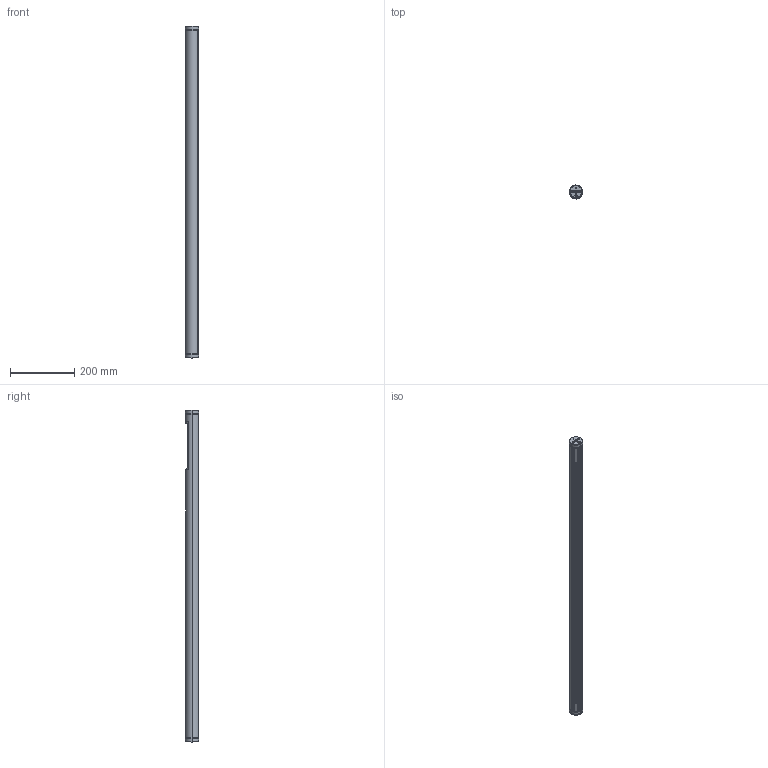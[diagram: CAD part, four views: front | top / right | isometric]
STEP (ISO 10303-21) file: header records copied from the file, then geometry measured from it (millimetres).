
FILE_DESCRIPTION (( 'STEP AP214' ), '1' );
FILE_NAME ('52532-Titan Assy-simple.STEP', '2018-09-04T01:38:34', ( '' ), ( '' ), 'SwSTEP 2.0', 'SolidWorks 2016', '' );
FILE_SCHEMA (( 'AUTOMOTIVE_DESIGN' ));
Length unit declared in the file: millimetre
Products named in the file (1): 52532-Titan Assy-simple
Bounding box: 42.44 x 42.4 x 1036 mm (x, y, z)
Volume: 192669.8 mm3; surface area: 305453.4 mm2
Topology: 19 solids, 19 shells, 1840 faces, 4921 edges, 3199 vertices
Faces by surface type: plane 888, cylinder 691, bspline 198, cone 32, torus 25, sphere 6
Entity records: 90505 total; most frequent: CARTESIAN_POINT 24685, ORIENTED_EDGE 9762, DIRECTION 9076, EDGE_CURVE 4881, VERTEX_POINT 3197, AXIS2_PLACEMENT_3D 3055, LINE 2966, VECTOR 2966
